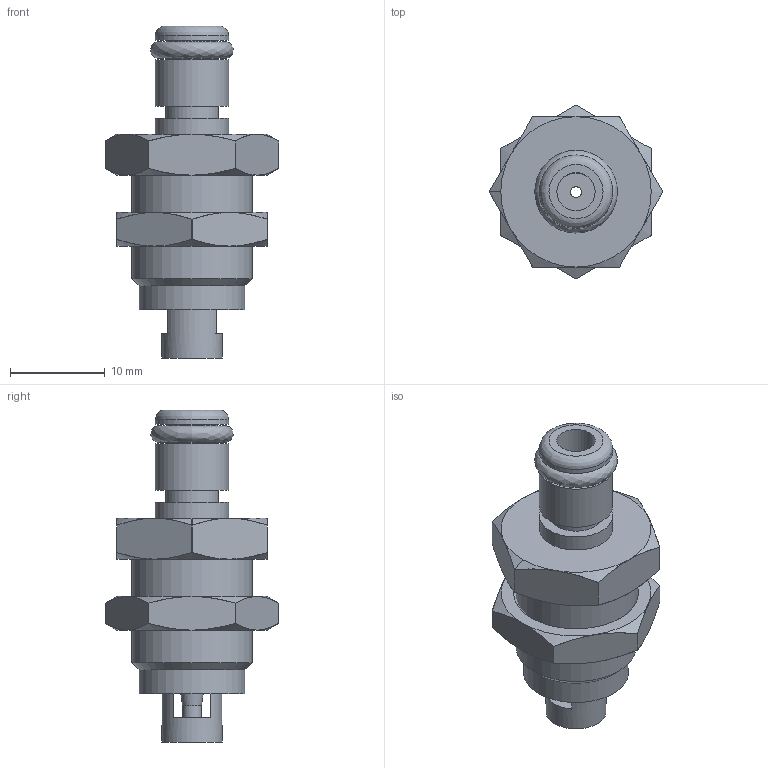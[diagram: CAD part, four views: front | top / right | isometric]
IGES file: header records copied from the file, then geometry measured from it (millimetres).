
Start section: Data from Parasolid IGES Translator 20.0.26, Copyright(c) 2006 Siemens P LM Software. All Rights Reserved.
Global section: file name: PMC4201.igs; native system: By Siemens PLM Incorporated; preprocessor: XPlus GENERIC/IGES 20.0.26; author: Noname; organization: Noname; date: 20200425.191108; units: millimetre
Bounding box: 18.33 x 18.33 x 35.05 mm (x, y, z)
Surface area: 2698.8 mm2 (no closed solid volume)
Topology: 0 solids, 0 shells, 78 faces, 326 edges, 293 vertices
Faces by surface type: revolution 47, extrusion 31
